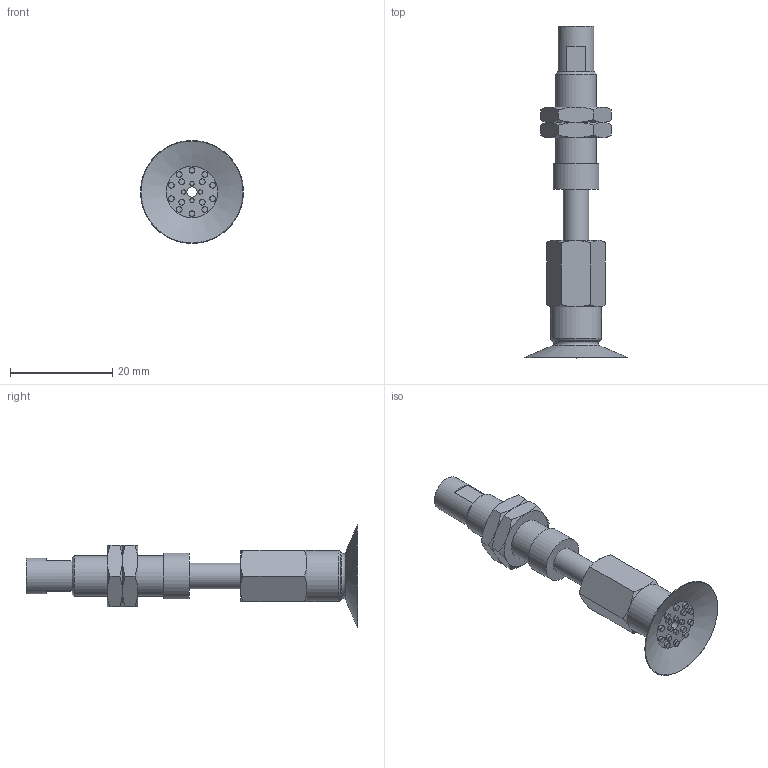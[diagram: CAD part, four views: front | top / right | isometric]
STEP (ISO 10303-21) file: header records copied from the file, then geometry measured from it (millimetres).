
FILE_DESCRIPTION(('STEP AP203'),'1');
FILE_NAME('.stp','2025-08-26T08:55:54',(' '),(' '),'Spatial InterOp 3D',' ',' ');
FILE_SCHEMA(('CONFIG_CONTROL_DESIGN'));
Length unit declared in the file: millimetre
Products named in the file (6): BNABPATS-20A-10-※; ADAPTER; NAPATS-10A-10--M; NAPATS-20A-10--F; Nut-10A-S; BPAG-20A-※_3D
Assembly tree (6 placements, depth 2):
  BNABPATS-20A-10-※
    ADAPTER
    NAPATS-10A-10--M
    NAPATS-20A-10--F
    Nut-10A-S  x2
    BPAG-20A-※_3D
Bounding box: 20.19 x 65 x 20.19 mm (x, y, z)
Volume: 3821.4 mm3; surface area: 4664 mm2
Topology: 6 solids, 6 shells, 149 faces, 290 edges, 178 vertices
Faces by surface type: plane 59, cone 46, cylinder 34, torus 10
Full cylindrical faces by diameter (mm): 0.9 x4, 1.1 x14, 2 x3, 4 x2, 4.134 x1, 5 x2, 6 x2, 7 x1, 7.188 x2, 8 x1, 9 x1, 10 x1
Entity records: 3364 total; most frequent: CARTESIAN_POINT 743, DIRECTION 510, ORIENTED_EDGE 362, AXIS2_PLACEMENT_3D 244, EDGE_LOOP 212, EDGE_CURVE 181, FACE_OUTER_BOUND 169, VERTEX_POINT 141
